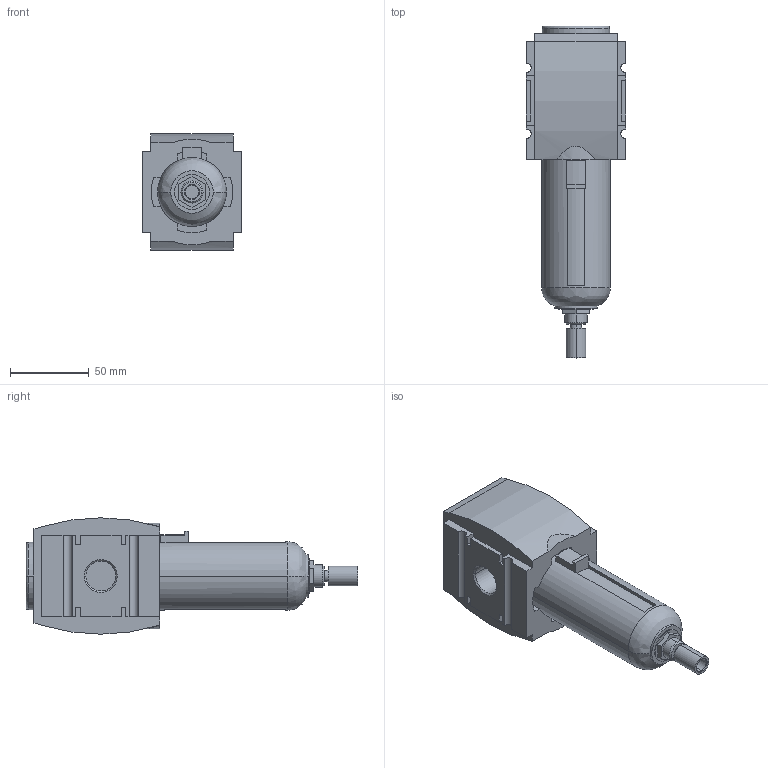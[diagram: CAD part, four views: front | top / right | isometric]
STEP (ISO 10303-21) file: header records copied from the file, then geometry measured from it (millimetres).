
FILE_DESCRIPTION((''),'2;1');
FILE_NAME('R412007028_ASM','2021-10-11T18:44:26',('PDH2HC'),(''),'CREO PARAMETRIC BY PTC INC, 2020044','CREO PARAMETRIC BY PTC INC, 2020044','');
FILE_SCHEMA(('AUTOMOTIVE_DESIGN { 1 0 10303 214 1 1 1 1 }'));
Length unit declared in the file: millimetre
Products named in the file (4): R412007028; AS3_RES_FILTER_FULLY; SG-AS3-TOP-COVER; R412007028_ASM
Assembly tree (3 placements, depth 2):
  R412007028_ASM
    R412007028
    AS3_RES_FILTER_FULLY
    SG-AS3-TOP-COVER
Bounding box: 63 x 211 x 74 mm (x, y, z)
Volume: 458245.9 mm3; surface area: 62023.1 mm2
Topology: 3 solids, 3 shells, 169 faces, 430 edges, 282 vertices
Faces by surface type: plane 115, cylinder 40, cone 10, bspline 2, torus 2
Entity records: 5861 total; most frequent: CARTESIAN_POINT 1084, DIRECTION 988, ORIENTED_EDGE 860, EDGE_CURVE 430, AXIS2_PLACEMENT_3D 340, VECTOR 308, LINE 308, VERTEX_POINT 282
